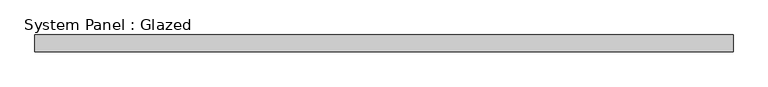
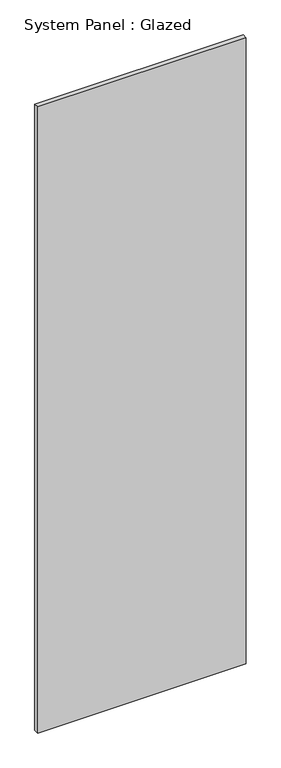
"""IFC4 building model written with IfcOpenShell, lengths in millimetres: plate geometry, System Panel : Glazed."""

from ifc_helpers import new_model, si_unit, origin, origin_with_axes, place, context, project, spatial, polyline, outline, extrude, source, transform, mapped, element, save


def system_panel_glazed_1be0ba14(model_context):
    return source(origin(), model_context, "Body", "SweptSolid", [
        extrude(outline(polyline([(520.0, 24.5), (-520.0, 24.5), (-520.0, 49.5), (520.0, 49.5), (520.0, 24.5)])), origin_with_axes(), (0.0, 0.0, 1.0), 3300.0),
    ])


if __name__ == "__main__":
    model = new_model("IFC4")
    model_context = context("Model", 3, world=origin())
    ifc_project = project(units=[si_unit("LENGTHUNIT", "METRE", prefix="MILLI")], contexts=[model_context])
    site = spatial("IfcSite", under=ifc_project)
    building = spatial("IfcBuilding", under=site)
    placement = place(None, origin())
    system_panel_glazed_shape = system_panel_glazed_1be0ba14(model_context)
    element("IfcPlate", 1, ObjectType="System Panel : Glazed", at=placement, inside=building, context=model_context, shape_type="MappedRepresentation", body=[
        mapped(system_panel_glazed_shape, transform((0.0, 0.0, 0.0), x_axis=(1.0, 0.0, 0.0), y_axis=(0.0, 1.0, 0.0), z_axis=(0.0, 0.0, 1.0))),
    ])
    save(model, "model.ifc")
